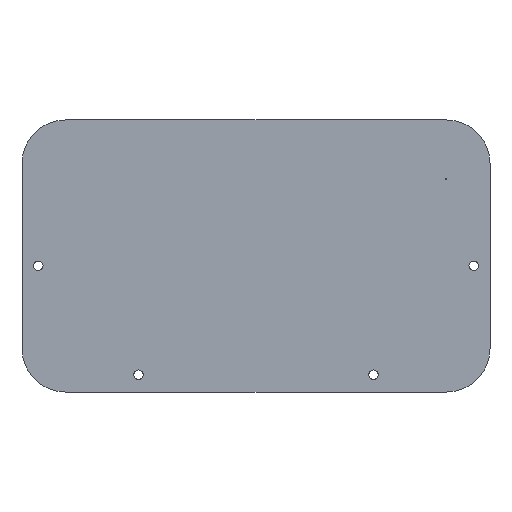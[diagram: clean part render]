
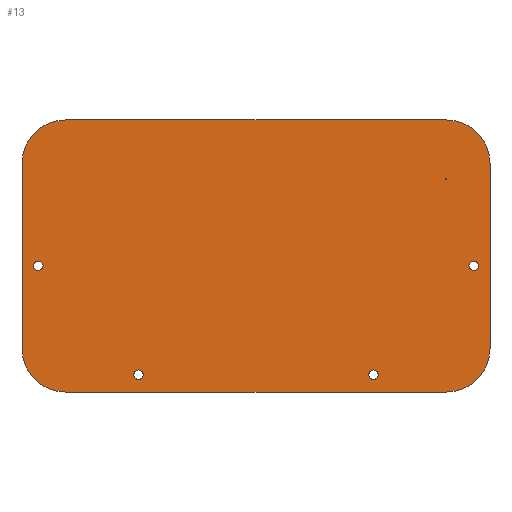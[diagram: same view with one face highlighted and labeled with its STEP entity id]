
A CAD part, top view. The second image highlights one B-rep face of the part: STEP entity #13.
In plain terms, the highlighted planar face has unit normal (0, 0, 1).
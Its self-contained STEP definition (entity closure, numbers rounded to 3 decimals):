
#1 = CIRCLE ( 'NONE', #480, 0.25 ) ;
#3 = VERTEX_POINT ( 'NONE', #135 ) ;
#6 = ORIENTED_EDGE ( 'NONE', *, *, #479, .T. ) ;
#9 = CARTESIAN_POINT ( 'NONE',  ( -51.85, -54.5, 0. ) ) ;
#13 = ADVANCED_FACE ( 'NONE', ( #139, #466, #520, #170, #48, #514 ), #85, .F. ) ;
#21 = EDGE_LOOP ( 'NONE', ( #158 ) ) ;
#24 = CIRCLE ( 'NONE', #147, 2.15 ) ;
#25 = CARTESIAN_POINT ( 'NONE',  ( -107.5, -42.5, 0. ) ) ;
#34 = VECTOR ( 'NONE', #462, 1000. ) ;
#36 = CIRCLE ( 'NONE', #349, 2.15 ) ;
#37 = CARTESIAN_POINT ( 'NONE',  ( 107.5, -42.5, 0. ) ) ;
#39 = EDGE_CURVE ( 'NONE', #429, #429, #415, .T. ) ;
#40 = DIRECTION ( 'NONE',  ( 1., 0., 0. ) ) ;
#48 = FACE_BOUND ( 'NONE', #398, .T. ) ;
#55 = EDGE_CURVE ( 'NONE', #547, #111, #449, .T. ) ;
#57 = DIRECTION ( 'NONE',  ( 0., 0., 1. ) ) ;
#67 = AXIS2_PLACEMENT_3D ( 'NONE', #276, #523, #241 ) ;
#69 = DIRECTION ( 'NONE',  ( 0., 0., 1. ) ) ;
#75 = ORIENTED_EDGE ( 'NONE', *, *, #307, .T. ) ;
#77 = DIRECTION ( 'NONE',  ( 0., 0., 1. ) ) ;
#85 = PLANE ( 'NONE',  #100 ) ;
#86 = EDGE_CURVE ( 'NONE', #3, #3, #1, .T. ) ;
#100 = AXIS2_PLACEMENT_3D ( 'NONE', #252, #262, #221 ) ;
#101 = AXIS2_PLACEMENT_3D ( 'NONE', #122, #539, #249 ) ;
#103 = LINE ( 'NONE', #492, #162 ) ;
#110 = CARTESIAN_POINT ( 'NONE',  ( 107.5, -42.5, 0. ) ) ;
#111 = VERTEX_POINT ( 'NONE', #473 ) ;
#122 = CARTESIAN_POINT ( 'NONE',  ( -87.5, 42.5, 0. ) ) ;
#123 = LINE ( 'NONE', #159, #527 ) ;
#130 = CARTESIAN_POINT ( 'NONE',  ( 87.183, 35.369, 0. ) ) ;
#134 = EDGE_CURVE ( 'NONE', #197, #497, #350, .T. ) ;
#135 = CARTESIAN_POINT ( 'NONE',  ( 87.433, 35.369, 0. ) ) ;
#139 = FACE_BOUND ( 'NONE', #160, .T. ) ;
#145 = ORIENTED_EDGE ( 'NONE', *, *, #250, .T. ) ;
#147 = AXIS2_PLACEMENT_3D ( 'NONE', #456, #333, #282 ) ;
#149 = ORIENTED_EDGE ( 'NONE', *, *, #469, .T. ) ;
#158 = ORIENTED_EDGE ( 'NONE', *, *, #39, .F. ) ;
#159 = CARTESIAN_POINT ( 'NONE',  ( -87.5, 62.5, 0. ) ) ;
#160 = EDGE_LOOP ( 'NONE', ( #230 ) ) ;
#162 = VECTOR ( 'NONE', #196, 1000. ) ;
#164 = CARTESIAN_POINT ( 'NONE',  ( 100., -4.5, 0. ) ) ;
#167 = VERTEX_POINT ( 'NONE', #110 ) ;
#170 = FACE_BOUND ( 'NONE', #21, .T. ) ;
#172 = CARTESIAN_POINT ( 'NONE',  ( 102.15, -4.5, 0. ) ) ;
#173 = DIRECTION ( 'NONE',  ( -1., 0., 0. ) ) ;
#176 = ORIENTED_EDGE ( 'NONE', *, *, #359, .F. ) ;
#182 = EDGE_CURVE ( 'NONE', #515, #195, #103, .T. ) ;
#183 = EDGE_LOOP ( 'NONE', ( #296 ) ) ;
#194 = DIRECTION ( 'NONE',  ( 1., 0., 0. ) ) ;
#195 = VERTEX_POINT ( 'NONE', #25 ) ;
#196 = DIRECTION ( 'NONE',  ( 0., -1., 0. ) ) ;
#197 = VERTEX_POINT ( 'NONE', #489 ) ;
#198 = AXIS2_PLACEMENT_3D ( 'NONE', #424, #57, #173 ) ;
#221 = DIRECTION ( 'NONE',  ( -1., 0., 0. ) ) ;
#225 = AXIS2_PLACEMENT_3D ( 'NONE', #482, #69, #397 ) ;
#226 = EDGE_CURVE ( 'NONE', #195, #197, #304, .T. ) ;
#230 = ORIENTED_EDGE ( 'NONE', *, *, #86, .F. ) ;
#241 = DIRECTION ( 'NONE',  ( -1., 0., 0. ) ) ;
#249 = DIRECTION ( 'NONE',  ( -1., 0., 0. ) ) ;
#250 = EDGE_CURVE ( 'NONE', #497, #167, #458, .T. ) ;
#252 = CARTESIAN_POINT ( 'NONE',  ( -87.5, -42.5, 0. ) ) ;
#258 = EDGE_LOOP ( 'NONE', ( #176 ) ) ;
#262 = DIRECTION ( 'NONE',  ( 0., 0., -1. ) ) ;
#271 = ORIENTED_EDGE ( 'NONE', *, *, #134, .T. ) ;
#276 = CARTESIAN_POINT ( 'NONE',  ( -87.5, -42.5, 0. ) ) ;
#278 = CIRCLE ( 'NONE', #394, 2.15 ) ;
#282 = DIRECTION ( 'NONE',  ( 1., 0., 0. ) ) ;
#296 = ORIENTED_EDGE ( 'NONE', *, *, #464, .F. ) ;
#298 = CARTESIAN_POINT ( 'NONE',  ( -107.5, 42.5, 0. ) ) ;
#299 = DIRECTION ( 'NONE',  ( 0., 0., 1. ) ) ;
#302 = LINE ( 'NONE', #37, #34 ) ;
#304 = CIRCLE ( 'NONE', #67, 20. ) ;
#306 = VERTEX_POINT ( 'NONE', #9 ) ;
#307 = EDGE_CURVE ( 'NONE', #167, #547, #302, .T. ) ;
#327 = CARTESIAN_POINT ( 'NONE',  ( -100., -4.5, 0. ) ) ;
#332 = ORIENTED_EDGE ( 'NONE', *, *, #182, .T. ) ;
#333 = DIRECTION ( 'NONE',  ( 0., 0., 1. ) ) ;
#342 = EDGE_LOOP ( 'NONE', ( #386, #271, #145, #75, #352, #6, #149, #332 ) ) ;
#345 = CARTESIAN_POINT ( 'NONE',  ( 54., -54.5, 0. ) ) ;
#346 = EDGE_CURVE ( 'NONE', #306, #306, #24, .T. ) ;
#349 = AXIS2_PLACEMENT_3D ( 'NONE', #164, #503, #370 ) ;
#350 = LINE ( 'NONE', #453, #420 ) ;
#352 = ORIENTED_EDGE ( 'NONE', *, *, #55, .T. ) ;
#359 = EDGE_CURVE ( 'NONE', #470, #470, #278, .T. ) ;
#369 = AXIS2_PLACEMENT_3D ( 'NONE', #345, #426, #517 ) ;
#370 = DIRECTION ( 'NONE',  ( 1., 0., 0. ) ) ;
#378 = CARTESIAN_POINT ( 'NONE',  ( 56.15, -54.5, 0. ) ) ;
#379 = ORIENTED_EDGE ( 'NONE', *, *, #346, .F. ) ;
#386 = ORIENTED_EDGE ( 'NONE', *, *, #226, .T. ) ;
#387 = CARTESIAN_POINT ( 'NONE',  ( -97.85, -4.5, 0. ) ) ;
#394 = AXIS2_PLACEMENT_3D ( 'NONE', #327, #77, #40 ) ;
#397 = DIRECTION ( 'NONE',  ( 1., 0., 0. ) ) ;
#398 = EDGE_LOOP ( 'NONE', ( #379 ) ) ;
#415 = CIRCLE ( 'NONE', #369, 2.15 ) ;
#420 = VECTOR ( 'NONE', #194, 1000. ) ;
#424 = CARTESIAN_POINT ( 'NONE',  ( 87.5, 42.5, 0. ) ) ;
#426 = DIRECTION ( 'NONE',  ( 0., 0., 1. ) ) ;
#429 = VERTEX_POINT ( 'NONE', #378 ) ;
#449 = CIRCLE ( 'NONE', #198, 20. ) ;
#453 = CARTESIAN_POINT ( 'NONE',  ( -87.5, -62.5, 0. ) ) ;
#456 = CARTESIAN_POINT ( 'NONE',  ( -54., -54.5, 0. ) ) ;
#458 = CIRCLE ( 'NONE', #225, 20. ) ;
#462 = DIRECTION ( 'NONE',  ( 0., 1., 0. ) ) ;
#464 = EDGE_CURVE ( 'NONE', #474, #474, #36, .T. ) ;
#466 = FACE_BOUND ( 'NONE', #183, .T. ) ;
#467 = CARTESIAN_POINT ( 'NONE',  ( -87.5, 62.5, 0. ) ) ;
#468 = DIRECTION ( 'NONE',  ( 1., 0., 0. ) ) ;
#469 = EDGE_CURVE ( 'NONE', #512, #515, #493, .T. ) ;
#470 = VERTEX_POINT ( 'NONE', #387 ) ;
#472 = DIRECTION ( 'NONE',  ( -1., 0., 0. ) ) ;
#473 = CARTESIAN_POINT ( 'NONE',  ( 87.5, 62.5, 0. ) ) ;
#474 = VERTEX_POINT ( 'NONE', #172 ) ;
#479 = EDGE_CURVE ( 'NONE', #111, #512, #123, .T. ) ;
#480 = AXIS2_PLACEMENT_3D ( 'NONE', #130, #299, #468 ) ;
#482 = CARTESIAN_POINT ( 'NONE',  ( 87.5, -42.5, 0. ) ) ;
#489 = CARTESIAN_POINT ( 'NONE',  ( -87.5, -62.5, 0. ) ) ;
#492 = CARTESIAN_POINT ( 'NONE',  ( -107.5, -42.5, 0. ) ) ;
#493 = CIRCLE ( 'NONE', #101, 20. ) ;
#497 = VERTEX_POINT ( 'NONE', #506 ) ;
#503 = DIRECTION ( 'NONE',  ( 0., 0., 1. ) ) ;
#506 = CARTESIAN_POINT ( 'NONE',  ( 87.5, -62.5, 0. ) ) ;
#512 = VERTEX_POINT ( 'NONE', #467 ) ;
#514 = FACE_OUTER_BOUND ( 'NONE', #342, .T. ) ;
#515 = VERTEX_POINT ( 'NONE', #298 ) ;
#516 = CARTESIAN_POINT ( 'NONE',  ( 107.5, 42.5, 0. ) ) ;
#517 = DIRECTION ( 'NONE',  ( 1., 0., 0. ) ) ;
#520 = FACE_BOUND ( 'NONE', #258, .T. ) ;
#523 = DIRECTION ( 'NONE',  ( 0., 0., 1. ) ) ;
#527 = VECTOR ( 'NONE', #472, 1000. ) ;
#539 = DIRECTION ( 'NONE',  ( 0., 0., 1. ) ) ;
#547 = VERTEX_POINT ( 'NONE', #516 ) ;
